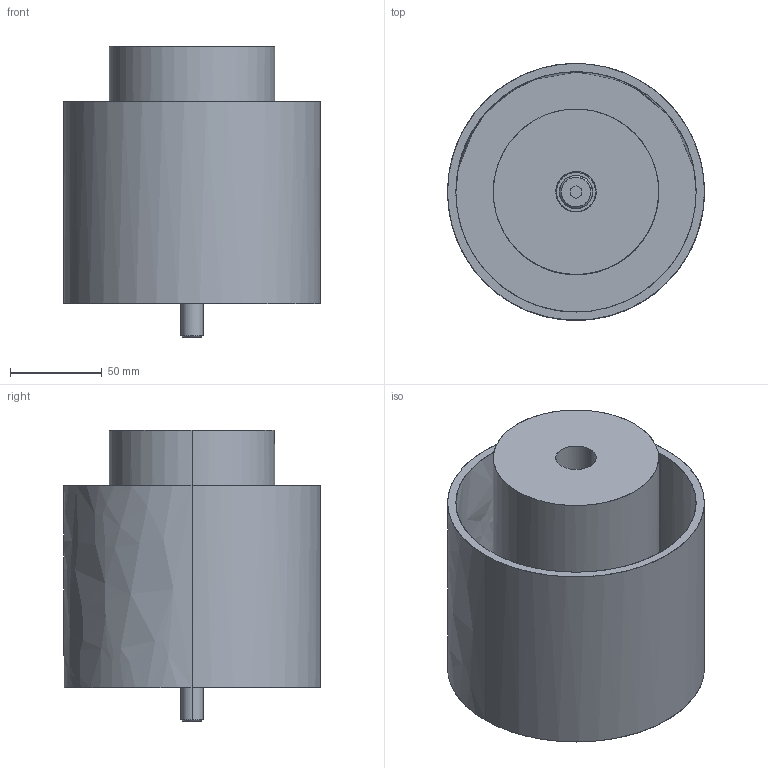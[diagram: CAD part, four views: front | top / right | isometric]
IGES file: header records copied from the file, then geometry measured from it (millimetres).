
Global section: file name: E:\UnigraphicsGraphicData\MISUMI_PRESS-PARTS\IGES\3d_phbtn90-140-110-r_07077_r00.igs; native system: NX V5.0; preprocessor: UGS NX IGES V5.0; author: MISUMI; date: 20110105.162250; units: millimetre
Bounding box: 139.8 x 139.8 x 158.4 mm (x, y, z)
Surface area: 191700.2 mm2 (no closed solid volume)
Topology: 0 solids, 0 shells, 50 faces, 396 edges, 396 vertices
Faces by surface type: bspline 50
